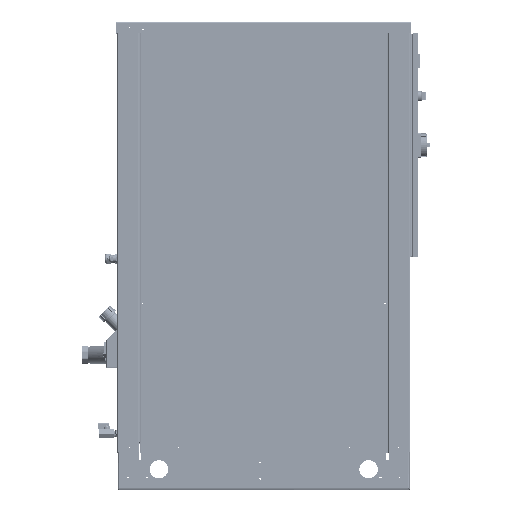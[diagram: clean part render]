
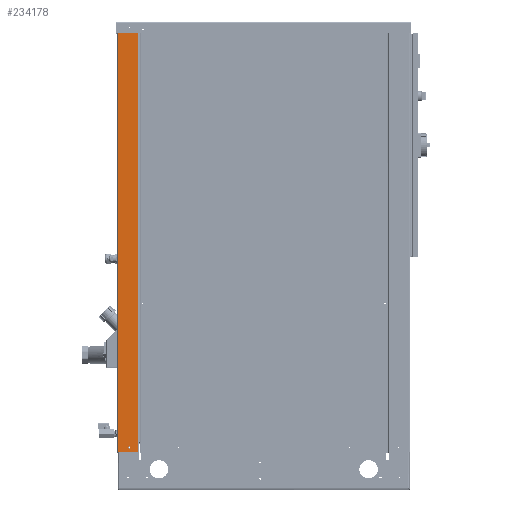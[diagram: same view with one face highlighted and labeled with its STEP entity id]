
A CAD part, top view. The second image highlights one B-rep face of the part: STEP entity #234178.
In plain terms, the highlighted planar face has unit normal (0, 0, 1).
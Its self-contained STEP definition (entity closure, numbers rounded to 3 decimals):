
#2903 = LINE ( 'NONE', #24986, #188848 ) ;
#14541 = DIRECTION ( 'NONE',  ( 0., 1., 0. ) ) ;
#14785 = CARTESIAN_POINT ( 'NONE',  ( 28.55, 1141.992, 0. ) ) ;
#15137 = EDGE_CURVE ( 'NONE', #261371, #217756, #256767, .T. ) ;
#16770 = CARTESIAN_POINT ( 'NONE',  ( 29., 12.5, 0. ) ) ;
#17891 = DIRECTION ( 'NONE',  ( 0., -1., 0. ) ) ;
#20780 = ORIENTED_EDGE ( 'NONE', *, *, #15137, .F. ) ;
#24986 = CARTESIAN_POINT ( 'NONE',  ( 32., 1143.984, 0. ) ) ;
#27279 = EDGE_CURVE ( 'NONE', #30386, #42910, #95824, .T. ) ;
#28765 = VERTEX_POINT ( 'NONE', #181756 ) ;
#29315 = VERTEX_POINT ( 'NONE', #16770 ) ;
#30386 = VERTEX_POINT ( 'NONE', #258218 ) ;
#30724 = DIRECTION ( 'NONE',  ( 1., 0., 0. ) ) ;
#39206 = DIRECTION ( 'NONE',  ( 0., 0., 1. ) ) ;
#40077 = ORIENTED_EDGE ( 'NONE', *, *, #134419, .F. ) ;
#42910 = VERTEX_POINT ( 'NONE', #221620 ) ;
#46772 = FACE_BOUND ( 'NONE', #260820, .T. ) ;
#47051 = VERTEX_POINT ( 'NONE', #14785 ) ;
#49863 = ORIENTED_EDGE ( 'NONE', *, *, #105209, .F. ) ;
#53391 = LINE ( 'NONE', #266234, #231584 ) ;
#57778 = DIRECTION ( 'NONE',  ( 1., 0., 0. ) ) ;
#58372 = VERTEX_POINT ( 'NONE', #222847 ) ;
#60516 = CARTESIAN_POINT ( 'NONE',  ( 0., 0., 0. ) ) ;
#62298 = VECTOR ( 'NONE', #17891, 1000. ) ;
#64143 = ORIENTED_EDGE ( 'NONE', *, *, #158575, .F. ) ;
#64907 = CIRCLE ( 'NONE', #148843, 3. ) ;
#66537 = DIRECTION ( 'NONE',  ( -0.866, -0.5, 0. ) ) ;
#67501 = PLANE ( 'NONE',  #256668 ) ;
#68886 = DIRECTION ( 'NONE',  ( -1., 0., 0. ) ) ;
#72782 = ORIENTED_EDGE ( 'NONE', *, *, #143364, .T. ) ;
#72996 = FACE_OUTER_BOUND ( 'NONE', #188668, .T. ) ;
#83788 = CARTESIAN_POINT ( 'NONE',  ( 2.4, 1153., 0. ) ) ;
#92085 = VERTEX_POINT ( 'NONE', #83788 ) ;
#95824 = LINE ( 'NONE', #237625, #196538 ) ;
#96643 = ORIENTED_EDGE ( 'NONE', *, *, #165684, .F. ) ;
#97085 = LINE ( 'NONE', #139975, #246441 ) ;
#99118 = LINE ( 'NONE', #273204, #122244 ) ;
#100123 = CARTESIAN_POINT ( 'NONE',  ( 32., 12.5, 0. ) ) ;
#101467 = DIRECTION ( 'NONE',  ( 1., 0., 0. ) ) ;
#104019 = CARTESIAN_POINT ( 'NONE',  ( 32., 12.5, 0. ) ) ;
#105209 = EDGE_CURVE ( 'NONE', #92085, #261371, #97085, .T. ) ;
#114552 = DIRECTION ( 'NONE',  ( 0.866, 0.5, 0. ) ) ;
#121039 = LINE ( 'NONE', #249584, #164758 ) ;
#121075 = VECTOR ( 'NONE', #57778, 1000. ) ;
#122244 = VECTOR ( 'NONE', #151510, 1000. ) ;
#126696 = CARTESIAN_POINT ( 'NONE',  ( 2.4, 0., 0. ) ) ;
#128432 = CIRCLE ( 'NONE', #133005, 3. ) ;
#131004 = DIRECTION ( 'NONE',  ( 0., -1., 0. ) ) ;
#133005 = AXIS2_PLACEMENT_3D ( 'NONE', #100123, #39206, #101467 ) ;
#134419 = EDGE_CURVE ( 'NONE', #58372, #248059, #99118, .T. ) ;
#137449 = CARTESIAN_POINT ( 'NONE',  ( 56.6, 1153., 0. ) ) ;
#139742 = LINE ( 'NONE', #206070, #62298 ) ;
#139794 = VECTOR ( 'NONE', #114552, 1000. ) ;
#139975 = CARTESIAN_POINT ( 'NONE',  ( 0., 1153., 0. ) ) ;
#143364 = EDGE_CURVE ( 'NONE', #92085, #193334, #121039, .T. ) ;
#144620 = CARTESIAN_POINT ( 'NONE',  ( 56.6, 1153., 0. ) ) ;
#148843 = AXIS2_PLACEMENT_3D ( 'NONE', #104019, #188378, #187006 ) ;
#151510 = DIRECTION ( 'NONE',  ( 0.866, -0.5, 0. ) ) ;
#152486 = ORIENTED_EDGE ( 'NONE', *, *, #245254, .F. ) ;
#154635 = FACE_BOUND ( 'NONE', #188043, .T. ) ;
#156115 = LINE ( 'NONE', #178194, #139794 ) ;
#157372 = DIRECTION ( 'NONE',  ( 0., 0., -1. ) ) ;
#158575 = EDGE_CURVE ( 'NONE', #184504, #29315, #128432, .T. ) ;
#164254 = LINE ( 'NONE', #60516, #121075 ) ;
#164758 = VECTOR ( 'NONE', #228805, 1000. ) ;
#165684 = EDGE_CURVE ( 'NONE', #28765, #30386, #53391, .T. ) ;
#167079 = EDGE_CURVE ( 'NONE', #29315, #184504, #64907, .T. ) ;
#168320 = CARTESIAN_POINT ( 'NONE',  ( 32., 1136.016, 0. ) ) ;
#173648 = EDGE_CURVE ( 'NONE', #193334, #217756, #164254, .T. ) ;
#176484 = ORIENTED_EDGE ( 'NONE', *, *, #173648, .T. ) ;
#178194 = CARTESIAN_POINT ( 'NONE',  ( 32., 1136.016, 0. ) ) ;
#181756 = CARTESIAN_POINT ( 'NONE',  ( 35.45, 1138.008, 0. ) ) ;
#184504 = VERTEX_POINT ( 'NONE', #232916 ) ;
#187006 = DIRECTION ( 'NONE',  ( 1., 0., 0. ) ) ;
#188043 = EDGE_LOOP ( 'NONE', ( #64143, #209276 ) ) ;
#188378 = DIRECTION ( 'NONE',  ( 0., 0., 1. ) ) ;
#188668 = EDGE_LOOP ( 'NONE', ( #176484, #20780, #49863, #72782 ) ) ;
#188848 = VECTOR ( 'NONE', #66537, 1000. ) ;
#193334 = VERTEX_POINT ( 'NONE', #126696 ) ;
#196538 = VECTOR ( 'NONE', #234860, 1000. ) ;
#206070 = CARTESIAN_POINT ( 'NONE',  ( 28.55, 1141.992, 0. ) ) ;
#209276 = ORIENTED_EDGE ( 'NONE', *, *, #167079, .F. ) ;
#217756 = VERTEX_POINT ( 'NONE', #246138 ) ;
#221612 = ORIENTED_EDGE ( 'NONE', *, *, #27279, .F. ) ;
#221620 = CARTESIAN_POINT ( 'NONE',  ( 32., 1143.984, 0. ) ) ;
#222847 = CARTESIAN_POINT ( 'NONE',  ( 28.55, 1138.008, 0. ) ) ;
#227125 = EDGE_CURVE ( 'NONE', #42910, #47051, #2903, .T. ) ;
#228805 = DIRECTION ( 'NONE',  ( 0., -1., 0. ) ) ;
#231584 = VECTOR ( 'NONE', #14541, 1000. ) ;
#232916 = CARTESIAN_POINT ( 'NONE',  ( 35., 12.5, 0. ) ) ;
#234178 = ADVANCED_FACE ( 'NONE', ( #46772, #154635, #72996 ), #67501, .F. ) ;
#234860 = DIRECTION ( 'NONE',  ( -0.866, 0.5, 0. ) ) ;
#236587 = VECTOR ( 'NONE', #131004, 1000. ) ;
#237625 = CARTESIAN_POINT ( 'NONE',  ( 35.45, 1141.992, 0. ) ) ;
#245254 = EDGE_CURVE ( 'NONE', #248059, #28765, #156115, .T. ) ;
#246138 = CARTESIAN_POINT ( 'NONE',  ( 56.6, 0., 0. ) ) ;
#246441 = VECTOR ( 'NONE', #30724, 1000. ) ;
#248059 = VERTEX_POINT ( 'NONE', #168320 ) ;
#249584 = CARTESIAN_POINT ( 'NONE',  ( 2.4, 1153., 0. ) ) ;
#254565 = ORIENTED_EDGE ( 'NONE', *, *, #265048, .F. ) ;
#256668 = AXIS2_PLACEMENT_3D ( 'NONE', #259674, #157372, #68886 ) ;
#256767 = LINE ( 'NONE', #137449, #236587 ) ;
#258218 = CARTESIAN_POINT ( 'NONE',  ( 35.45, 1141.992, 0. ) ) ;
#259674 = CARTESIAN_POINT ( 'NONE',  ( 0., 1153., 0. ) ) ;
#260820 = EDGE_LOOP ( 'NONE', ( #152486, #40077, #254565, #268348, #221612, #96643 ) ) ;
#261371 = VERTEX_POINT ( 'NONE', #144620 ) ;
#265048 = EDGE_CURVE ( 'NONE', #47051, #58372, #139742, .T. ) ;
#266234 = CARTESIAN_POINT ( 'NONE',  ( 35.45, 1138.008, 0. ) ) ;
#268348 = ORIENTED_EDGE ( 'NONE', *, *, #227125, .F. ) ;
#273204 = CARTESIAN_POINT ( 'NONE',  ( 28.55, 1138.008, 0. ) ) ;
